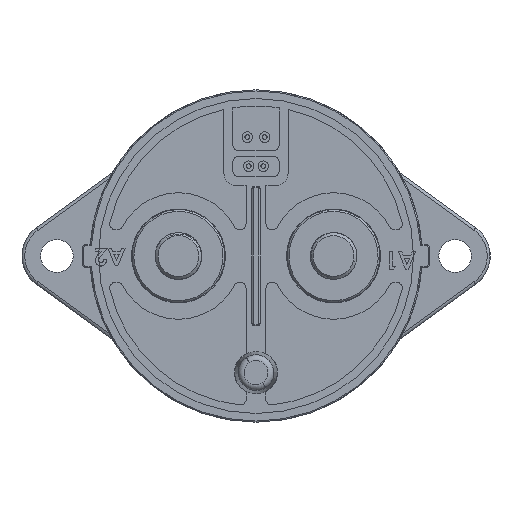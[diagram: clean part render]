
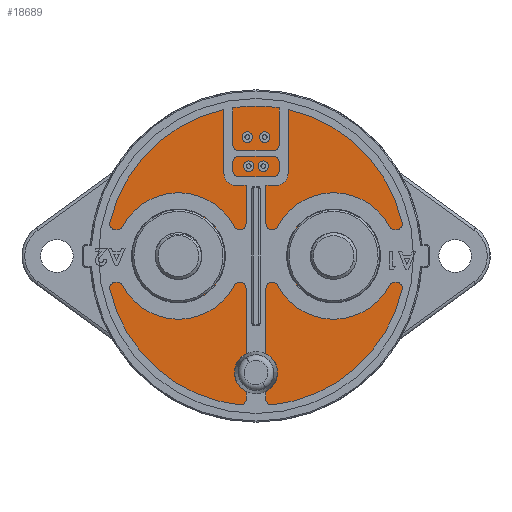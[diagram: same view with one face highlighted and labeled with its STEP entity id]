
A CAD part, front view. The second image highlights one B-rep face of the part: STEP entity #18689.
In plain terms, the highlighted planar face has unit normal (0, -1, 0).
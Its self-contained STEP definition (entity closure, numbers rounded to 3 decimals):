
#18230=CARTESIAN_POINT('',(-116.926,44.799,
-4.4));
#18231=DIRECTION('',(0.,-1.,0.));
#18232=DIRECTION('',(0.,0.,-1.));
#18233=AXIS2_PLACEMENT_3D('',#18230,#18231,#18232);
#18235=CARTESIAN_POINT('',(-116.926,44.799,
-4.4));
#18236=DIRECTION('',(0.,-1.,0.));
#18237=DIRECTION('',(0.,0.,1.));
#18238=AXIS2_PLACEMENT_3D('',#18235,#18236,#18237);
#18240=CARTESIAN_POINT('',(-115.426,44.799,
15.994));
#18241=DIRECTION('',(0.,1.,0.));
#18242=DIRECTION('',(0.,0.,1.));
#18243=AXIS2_PLACEMENT_3D('',#18240,#18241,#18242);
#18245=CARTESIAN_POINT('',(-115.426,44.799,
15.994));
#18246=DIRECTION('',(0.,1.,0.));
#18247=DIRECTION('',(0.,0.,-1.));
#18248=AXIS2_PLACEMENT_3D('',#18245,#18246,#18247);
#18250=CARTESIAN_POINT('',(-115.676,44.799,11.));
#18251=DIRECTION('',(0.,1.,0.));
#18252=DIRECTION('',(0.,0.,1.));
#18253=AXIS2_PLACEMENT_3D('',#18250,#18251,#18252);
#18255=CARTESIAN_POINT('',(-115.676,44.799,11.));
#18256=DIRECTION('',(0.,1.,0.));
#18257=DIRECTION('',(0.,0.,-1.));
#18258=AXIS2_PLACEMENT_3D('',#18255,#18256,#18257);
#18260=CARTESIAN_POINT('',(-103.626,44.799,
-4.4));
#18261=DIRECTION('',(0.,1.,0.));
#18262=DIRECTION('',(0.,0.,1.));
#18263=AXIS2_PLACEMENT_3D('',#18260,#18261,#18262);
#18265=CARTESIAN_POINT('',(-103.626,44.799,
-4.4));
#18266=DIRECTION('',(0.,1.,0.));
#18267=DIRECTION('',(0.,0.,-1.));
#18268=AXIS2_PLACEMENT_3D('',#18265,#18266,#18267);
#18270=CARTESIAN_POINT('',(-130.226,44.799,
-4.4));
#18271=DIRECTION('',(0.,1.,0.));
#18272=DIRECTION('',(0.,0.,1.));
#18273=AXIS2_PLACEMENT_3D('',#18270,#18271,#18272);
#18275=CARTESIAN_POINT('',(-130.226,44.799,
-4.4));
#18276=DIRECTION('',(0.,1.,0.));
#18277=DIRECTION('',(0.,0.,-1.));
#18278=AXIS2_PLACEMENT_3D('',#18275,#18276,#18277);
#18280=CARTESIAN_POINT('',(-118.176,44.799,11.));
#18281=DIRECTION('',(0.,1.,0.));
#18282=DIRECTION('',(0.,0.,1.));
#18283=AXIS2_PLACEMENT_3D('',#18280,#18281,#18282);
#18285=CARTESIAN_POINT('',(-118.176,44.799,11.));
#18286=DIRECTION('',(0.,1.,0.));
#18287=DIRECTION('',(0.,0.,-1.));
#18288=AXIS2_PLACEMENT_3D('',#18285,#18286,#18287);
#18290=CARTESIAN_POINT('',(-118.426,44.799,
15.994));
#18291=DIRECTION('',(0.,1.,0.));
#18292=DIRECTION('',(0.,0.,1.));
#18293=AXIS2_PLACEMENT_3D('',#18290,#18291,#18292);
#18295=CARTESIAN_POINT('',(-118.426,44.799,
15.994));
#18296=DIRECTION('',(0.,1.,0.));
#18297=DIRECTION('',(0.,0.,-1.));
#18298=AXIS2_PLACEMENT_3D('',#18295,#18296,#18297);
#18510=CARTESIAN_POINT('',(-115.426,44.799,
15.094));
#18512=VERTEX_POINT('',#18510);
#18514=CARTESIAN_POINT('',(-115.426,44.799,
16.894));
#18515=VERTEX_POINT('',#18514);
#18516=CARTESIAN_POINT('',(-118.176,44.799,10.1));
#18518=VERTEX_POINT('',#18516);
#18529=CARTESIAN_POINT('',(-130.226,44.799,-12.4));
#18531=VERTEX_POINT('',#18529);
#18532=CARTESIAN_POINT('',(-118.176,44.799,11.9));
#18533=VERTEX_POINT('',#18532);
#18534=CARTESIAN_POINT('',(-103.626,44.799,-12.4));
#18535=CARTESIAN_POINT('',(-103.626,44.799,
3.6));
#18536=VERTEX_POINT('',#18534);
#18537=VERTEX_POINT('',#18535);
#18544=CARTESIAN_POINT('',(-118.426,44.799,
16.894));
#18545=CARTESIAN_POINT('',(-118.426,44.799,
15.094));
#18546=VERTEX_POINT('',#18544);
#18547=VERTEX_POINT('',#18545);
#18560=CARTESIAN_POINT('',(-130.226,44.799,
3.6));
#18561=VERTEX_POINT('',#18560);
#18574=CARTESIAN_POINT('',(-115.676,44.799,10.1));
#18575=VERTEX_POINT('',#18574);
#18576=CARTESIAN_POINT('',(-116.926,44.799,22.6));
#18577=CARTESIAN_POINT('',(-116.926,44.799,-31.4));
#18578=VERTEX_POINT('',#18576);
#18579=VERTEX_POINT('',#18577);
#18582=CARTESIAN_POINT('',(-115.676,44.799,11.9));
#18583=VERTEX_POINT('',#18582);
#18644=CARTESIAN_POINT('',(-116.926,44.799,
-4.4));
#18645=DIRECTION('',(0.,-1.,0.));
#18646=DIRECTION('',(0.,0.,1.));
#18647=AXIS2_PLACEMENT_3D('',#18644,#18645,#18646);
#18648=PLANE('',#18647);
#18650=ORIENTED_EDGE('',*,*,#18649,.F.);
#18652=ORIENTED_EDGE('',*,*,#18651,.F.);
#18653=EDGE_LOOP('',(#18650,#18652));
#18654=FACE_OUTER_BOUND('',#18653,.F.);
#18656=ORIENTED_EDGE('',*,*,#18655,.F.);
#18658=ORIENTED_EDGE('',*,*,#18657,.F.);
#18659=EDGE_LOOP('',(#18656,#18658));
#18660=FACE_BOUND('',#18659,.F.);
#18661=ORIENTED_EDGE('',*,*,#18637,.F.);
#18662=ORIENTED_EDGE('',*,*,#18607,.F.);
#18663=EDGE_LOOP('',(#18661,#18662));
#18664=FACE_BOUND('',#18663,.F.);
#18666=ORIENTED_EDGE('',*,*,#18665,.F.);
#18668=ORIENTED_EDGE('',*,*,#18667,.F.);
#18669=EDGE_LOOP('',(#18666,#18668));
#18670=FACE_BOUND('',#18669,.F.);
#18672=ORIENTED_EDGE('',*,*,#18671,.F.);
#18674=ORIENTED_EDGE('',*,*,#18673,.F.);
#18675=EDGE_LOOP('',(#18672,#18674));
#18676=FACE_BOUND('',#18675,.F.);
#18678=ORIENTED_EDGE('',*,*,#18677,.F.);
#18680=ORIENTED_EDGE('',*,*,#18679,.F.);
#18681=EDGE_LOOP('',(#18678,#18680));
#18682=FACE_BOUND('',#18681,.F.);
#18684=ORIENTED_EDGE('',*,*,#18683,.F.);
#18686=ORIENTED_EDGE('',*,*,#18685,.F.);
#18687=EDGE_LOOP('',(#18684,#18686));
#18688=FACE_BOUND('',#18687,.F.);
#18689=ADVANCED_FACE('',(#18654,#18660,#18664,#18670,#18676,#18682,#18688),
#18648,.T.);
#18234=CIRCLE('',#18233,27.);
#18239=CIRCLE('',#18238,27.);
#18244=CIRCLE('',#18243,0.9);
#18249=CIRCLE('',#18248,0.9);
#18254=CIRCLE('',#18253,0.9);
#18259=CIRCLE('',#18258,0.9);
#18264=CIRCLE('',#18263,8.);
#18269=CIRCLE('',#18268,8.);
#18274=CIRCLE('',#18273,8.);
#18279=CIRCLE('',#18278,8.);
#18284=CIRCLE('',#18283,0.9);
#18289=CIRCLE('',#18288,0.9);
#18294=CIRCLE('',#18293,0.9);
#18299=CIRCLE('',#18298,0.9);
#18607=EDGE_CURVE('',#18575,#18583,#18259,.T.);
#18637=EDGE_CURVE('',#18583,#18575,#18254,.T.);
#18649=EDGE_CURVE('',#18579,#18578,#18234,.T.);
#18651=EDGE_CURVE('',#18578,#18579,#18239,.T.);
#18655=EDGE_CURVE('',#18515,#18512,#18244,.T.);
#18657=EDGE_CURVE('',#18512,#18515,#18249,.T.);
#18665=EDGE_CURVE('',#18537,#18536,#18264,.T.);
#18667=EDGE_CURVE('',#18536,#18537,#18269,.T.);
#18671=EDGE_CURVE('',#18561,#18531,#18274,.T.);
#18673=EDGE_CURVE('',#18531,#18561,#18279,.T.);
#18677=EDGE_CURVE('',#18533,#18518,#18284,.T.);
#18679=EDGE_CURVE('',#18518,#18533,#18289,.T.);
#18683=EDGE_CURVE('',#18546,#18547,#18294,.T.);
#18685=EDGE_CURVE('',#18547,#18546,#18299,.T.);
